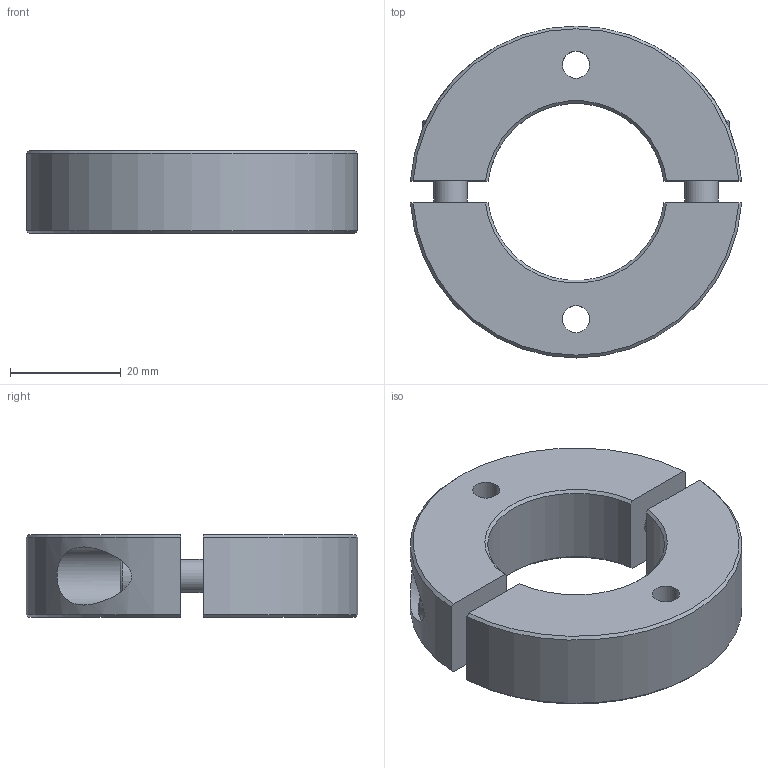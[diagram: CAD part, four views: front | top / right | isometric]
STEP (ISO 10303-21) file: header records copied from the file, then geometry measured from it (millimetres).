
FILE_DESCRIPTION( ( 'STEP AP203' ), '1' );
FILE_NAME( 'C:/Temp/Ganter_Step_05_03_2020/data/3_2/gn7072_2/Split Stainless Steel-Set collar GN 7072.2-60-B32-NI-C.stp', '2020-03-13T05:41:09', ( 'License CC BY-ND 4.0' ), ( 'CADENAS' ), ' ', 'PARTsolutions', ' ' );
FILE_SCHEMA( ( 'CONFIG_CONTROL_DESIGN' ) );
Length unit declared in the file: millimetre
Products named in the file (1): _Split Stainless Steel-Set collar GN 7072.2-60-B32-NI-C
Bounding box: 59.87 x 60 x 15 mm (x, y, z)
Volume: 26869.8 mm3; surface area: 10578.4 mm2
Topology: 1 solids, 1 shells, 52 faces, 123 edges, 83 vertices
Faces by surface type: plane 28, cylinder 14, cone 8, torus 2
Full cylindrical faces by diameter (mm): 4.917 x2, 6 x2, 6.4 x2, 10 x2, 10.5 x2
Entity records: 1633 total; most frequent: CARTESIAN_POINT 448, DIRECTION 230, ORIENTED_EDGE 212, EDGE_CURVE 106, AXIS2_PLACEMENT_3D 89, EDGE_LOOP 80, VERTEX_POINT 78, FACE_OUTER_BOUND 64
